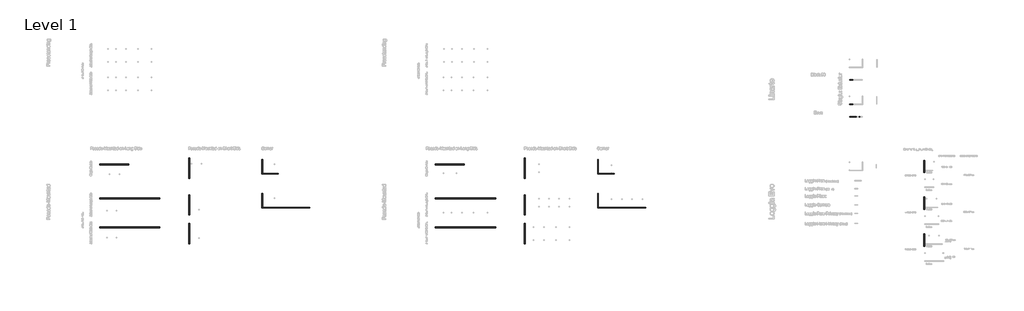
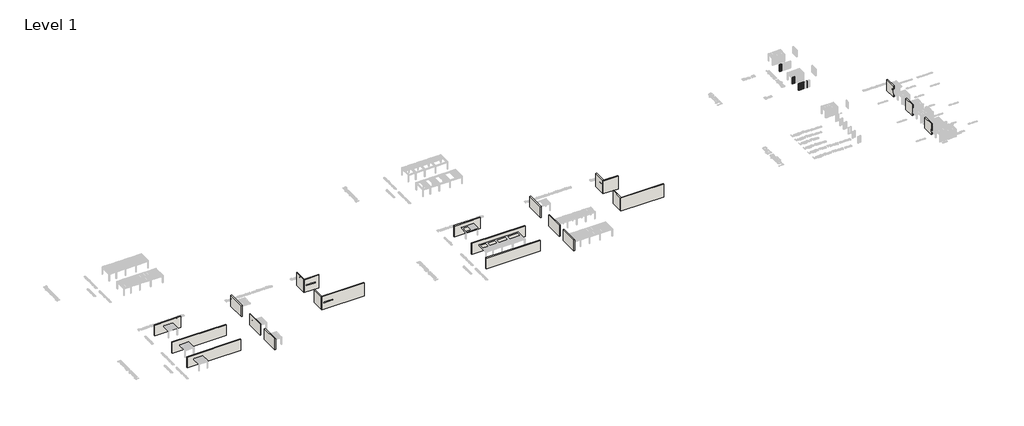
# One storey, part 1 of 69: 61 plates, 26 members, 23 walls.
"""IFC4 building model written with IfcOpenShell, lengths in millimetres."""

from ifc_helpers import new_model, si_unit, origin, origin_with_axes, place, context, project, spatial, polyline, outline, extrude, faceted_brep, transform, mapped, element, save
from components import rectangular_mullion_72383e52, rectangular_mullion_a288ed38

model = new_model("IFC4")

# Units and contexts
model_context = context("Model", 3, world=origin())
ifc_project = project(units=[si_unit("LENGTHUNIT", "METRE", prefix="MILLI")], contexts=[model_context])

# Site, building, storey
site = spatial("IfcSite", under=ifc_project)
building = spatial("IfcBuilding", under=site)
storey = spatial("IfcBuildingStorey", under=building, Name="Level 1", Elevation=0.0)

# Members
placement = place(None, origin())
rectangular_mullion_shape = rectangular_mullion_72383e52(model_context)
element("IfcMember", 1, ObjectType="Rectangular Mullion : Renson_Linarte_LA-B30-01", at=placement, inside=storey, context=model_context, shape_type="MappedRepresentation", body=[
    mapped(rectangular_mullion_shape, transform((207970.5749423, 15422.7652501, 0.0), x_axis=(-1.0, 0.0, 0.0), y_axis=(0.0, 1.0, 0.0), z_axis=(0.0, 0.0, -1.0))),
])
element("IfcMember", 2, ObjectType="Rectangular Mullion : Renson_Linarte_LA-B30-01", at=placement, inside=storey, context=model_context, shape_type="MappedRepresentation", body=[
    mapped(rectangular_mullion_shape, transform((207910.5749423, 15422.7652501, 0.0), x_axis=(-1.0, 0.0, 0.0), y_axis=(0.0, 1.0, 0.0), z_axis=(0.0, 0.0, -1.0))),
])
element("IfcMember", 3, ObjectType="Rectangular Mullion : Renson_Linarte_LA-B30-01", at=placement, inside=storey, context=model_context, shape_type="MappedRepresentation", body=[
    mapped(rectangular_mullion_shape, transform((207850.5749423, 15422.7652501, 0.0), x_axis=(-1.0, 0.0, 0.0), y_axis=(0.0, 1.0, 0.0), z_axis=(0.0, 0.0, -1.0))),
])
element("IfcMember", 4, ObjectType="Rectangular Mullion : Renson_Linarte_LA-B30-01", at=placement, inside=storey, context=model_context, shape_type="MappedRepresentation", body=[
    mapped(rectangular_mullion_shape, transform((207790.5749423, 15422.7652501, 0.0), x_axis=(-1.0, 0.0, 0.0), y_axis=(0.0, 1.0, 0.0), z_axis=(0.0, 0.0, -1.0))),
])
element("IfcMember", 5, ObjectType="Rectangular Mullion : Renson_Linarte_LA-B30-01", at=placement, inside=storey, context=model_context, shape_type="MappedRepresentation", body=[
    mapped(rectangular_mullion_shape, transform((207730.5749423, 15422.7652501, 0.0), x_axis=(-1.0, 0.0, 0.0), y_axis=(0.0, 1.0, 0.0), z_axis=(0.0, 0.0, -1.0))),
])
element("IfcMember", 6, ObjectType="Rectangular Mullion : Renson_Linarte_LA-B30-01", at=placement, inside=storey, context=model_context, shape_type="MappedRepresentation", body=[
    mapped(rectangular_mullion_shape, transform((207670.5749423, 15422.7652501, 0.0), x_axis=(-1.0, 0.0, 0.0), y_axis=(0.0, 1.0, 0.0), z_axis=(0.0, 0.0, -1.0))),
])
element("IfcMember", 7, ObjectType="Rectangular Mullion : Renson_Linarte_LA-B30-01", at=placement, inside=storey, context=model_context, shape_type="MappedRepresentation", body=[
    mapped(rectangular_mullion_shape, transform((207610.5749423, 15422.7652501, 0.0), x_axis=(-1.0, 0.0, 0.0), y_axis=(0.0, 1.0, 0.0), z_axis=(0.0, 0.0, -1.0))),
])
element("IfcMember", 8, ObjectType="Rectangular Mullion : Renson_Linarte_LA-B30-01", at=placement, inside=storey, context=model_context, shape_type="MappedRepresentation", body=[
    mapped(rectangular_mullion_shape, transform((207550.5749423, 15422.7652501, 0.0), x_axis=(-1.0, 0.0, 0.0), y_axis=(0.0, 1.0, 0.0), z_axis=(0.0, 0.0, -1.0))),
])
element("IfcMember", 9, ObjectType="Rectangular Mullion : Renson_Linarte_LA-B30-01", at=placement, inside=storey, context=model_context, shape_type="MappedRepresentation", body=[
    mapped(rectangular_mullion_shape, transform((207490.5749423, 15422.7652501, 0.0), x_axis=(-1.0, 0.0, 0.0), y_axis=(0.0, 1.0, 0.0), z_axis=(0.0, 0.0, -1.0))),
])
element("IfcMember", 10, ObjectType="Rectangular Mullion : Renson_Linarte_LA-B30-01", at=placement, inside=storey, context=model_context, shape_type="MappedRepresentation", body=[
    mapped(rectangular_mullion_shape, transform((207430.5749423, 15422.7652501, 0.0), x_axis=(-1.0, 0.0, 0.0), y_axis=(0.0, 1.0, 0.0), z_axis=(0.0, 0.0, -1.0))),
])
element("IfcMember", 11, ObjectType="Rectangular Mullion : Renson_Linarte_LA-B30-01", at=placement, inside=storey, context=model_context, shape_type="MappedRepresentation", body=[
    mapped(rectangular_mullion_shape, transform((207370.5749423, 15422.7652501, 0.0), x_axis=(-1.0, 0.0, 0.0), y_axis=(0.0, 1.0, 0.0), z_axis=(0.0, 0.0, -1.0))),
])
element("IfcMember", 12, ObjectType="Rectangular Mullion : Renson_Linarte_LA-B30-01", at=placement, inside=storey, context=model_context, shape_type="MappedRepresentation", body=[
    mapped(rectangular_mullion_shape, transform((207310.5749423, 15422.7652501, 0.0), x_axis=(-1.0, 0.0, 0.0), y_axis=(0.0, 1.0, 0.0), z_axis=(0.0, 0.0, -1.0))),
])
element("IfcMember", 13, ObjectType="Rectangular Mullion : Renson_Linarte_LA-B30-01", at=placement, inside=storey, context=model_context, shape_type="MappedRepresentation", body=[
    mapped(rectangular_mullion_shape, transform((207250.5749423, 15422.7652501, 0.0), x_axis=(-1.0, 0.0, 0.0), y_axis=(0.0, 1.0, 0.0), z_axis=(0.0, 0.0, -1.0))),
])
element("IfcMember", 14, ObjectType="Rectangular Mullion : Renson_Linarte_LA-B30-01", at=placement, inside=storey, context=model_context, shape_type="MappedRepresentation", body=[
    mapped(rectangular_mullion_shape, transform((207190.5749423, 15422.7652501, 0.0), x_axis=(-1.0, 0.0, 0.0), y_axis=(0.0, 1.0, 0.0), z_axis=(0.0, 0.0, -1.0))),
])
rectangular_mullion_2_shape = rectangular_mullion_a288ed38(model_context)
element("IfcMember", 15, ObjectType="Rectangular Mullion : Renson_Linarte_LA-E25-01", at=placement, inside=storey, context=model_context, shape_type="MappedRepresentation", body=[
    mapped(rectangular_mullion_2_shape, transform((207484.2591292, 4519.040906, 0.0), x_axis=(1.0, 0.0, 0.0), y_axis=(0.0, -1.0, 0.0), z_axis=(0.0, 0.0, -1.0))),
])
element("IfcMember", 16, ObjectType="Rectangular Mullion : Renson_Linarte_LA-E25-01", at=placement, inside=storey, context=model_context, shape_type="MappedRepresentation", body=[
    mapped(rectangular_mullion_2_shape, transform((207424.2591292, 4519.040906, 0.0), x_axis=(1.0, 0.0, 0.0), y_axis=(0.0, -1.0, 0.0), z_axis=(0.0, 0.0, -1.0))),
])
element("IfcMember", 17, ObjectType="Rectangular Mullion : Renson_Linarte_LA-E25-01", at=placement, inside=storey, context=model_context, shape_type="MappedRepresentation", body=[
    mapped(rectangular_mullion_2_shape, transform((207364.2591292, 4519.040906, 0.0), x_axis=(1.0, 0.0, 0.0), y_axis=(0.0, -1.0, 0.0), z_axis=(0.0, 0.0, -1.0))),
])
element("IfcMember", 18, ObjectType="Rectangular Mullion : Renson_Linarte_LA-E25-01", at=placement, inside=storey, context=model_context, shape_type="MappedRepresentation", body=[
    mapped(rectangular_mullion_2_shape, transform((207304.2591292, 4519.040906, 0.0), x_axis=(1.0, 0.0, 0.0), y_axis=(0.0, -1.0, 0.0), z_axis=(0.0, 0.0, -1.0))),
])
element("IfcMember", 19, ObjectType="Rectangular Mullion : Renson_Linarte_LA-E25-01", at=placement, inside=storey, context=model_context, shape_type="MappedRepresentation", body=[
    mapped(rectangular_mullion_2_shape, transform((207244.2591292, 4519.040906, 0.0), x_axis=(1.0, 0.0, 0.0), y_axis=(0.0, -1.0, 0.0), z_axis=(0.0, 0.0, -1.0))),
])
element("IfcMember", 20, ObjectType="Rectangular Mullion : Renson_Linarte_LA-E25-01", at=placement, inside=storey, context=model_context, shape_type="MappedRepresentation", body=[
    mapped(rectangular_mullion_2_shape, transform((207485.5749429, 8204.7218191, 0.0), x_axis=(1.0, 0.0, 0.0), y_axis=(0.0, -1.0, 0.0), z_axis=(0.0, 0.0, -1.0))),
])
element("IfcMember", 21, ObjectType="Rectangular Mullion : Renson_Linarte_LA-E25-01", at=placement, inside=storey, context=model_context, shape_type="MappedRepresentation", body=[
    mapped(rectangular_mullion_2_shape, transform((207425.5749429, 8204.7218191, 0.0), x_axis=(1.0, 0.0, 0.0), y_axis=(0.0, -1.0, 0.0), z_axis=(0.0, 0.0, -1.0))),
])
element("IfcMember", 22, ObjectType="Rectangular Mullion : Renson_Linarte_LA-E25-01", at=placement, inside=storey, context=model_context, shape_type="MappedRepresentation", body=[
    mapped(rectangular_mullion_2_shape, transform((207365.5749429, 8204.7218191, 0.0), x_axis=(1.0, 0.0, 0.0), y_axis=(0.0, -1.0, 0.0), z_axis=(0.0, 0.0, -1.0))),
])
element("IfcMember", 23, ObjectType="Rectangular Mullion : Renson_Linarte_LA-E25-01", at=placement, inside=storey, context=model_context, shape_type="MappedRepresentation", body=[
    mapped(rectangular_mullion_2_shape, transform((207305.5749429, 8204.7218191, 0.0), x_axis=(1.0, 0.0, 0.0), y_axis=(0.0, -1.0, 0.0), z_axis=(0.0, 0.0, -1.0))),
])
element("IfcMember", 24, ObjectType="Rectangular Mullion : Renson_Linarte_LA-E25-01", at=placement, inside=storey, context=model_context, shape_type="MappedRepresentation", body=[
    mapped(rectangular_mullion_2_shape, transform((207245.5749429, 8204.7218191, 0.0), x_axis=(1.0, 0.0, 0.0), y_axis=(0.0, -1.0, 0.0), z_axis=(0.0, 0.0, -1.0))),
])
element("IfcMember", 25, ObjectType="Rectangular Mullion : Renson_Linarte_LA-E25-01", at=placement, inside=storey, context=model_context, shape_type="MappedRepresentation", body=[
    mapped(rectangular_mullion_2_shape, transform((207185.5749429, 8204.7218191, 0.0), x_axis=(1.0, 0.0, 0.0), y_axis=(0.0, -1.0, 0.0), z_axis=(0.0, 0.0, -1.0))),
])
element("IfcMember", 26, ObjectType="Rectangular Mullion : Renson_Linarte_LA-E25-01", at=placement, inside=storey, context=model_context, shape_type="MappedRepresentation", body=[
    mapped(rectangular_mullion_2_shape, transform((207184.2591292, 4519.040906, 0.0), x_axis=(1.0, 0.0, 0.0), y_axis=(0.0, -1.0, 0.0), z_axis=(0.0, 0.0, -1.0))),
])

# Plates
element("IfcPlate", 27, ObjectType="Base - 64mm", at=placement, inside=storey, context=model_context, shape_type="SweptSolid", body=[
    extrude(outline(polyline([(207190.5749423, 15454.7652501), (207250.5749423, 15454.7652501), (207250.5749423, 15390.7652501), (207190.5749423, 15390.7652501), (207190.5749423, 15454.7652501)])), origin_with_axes(), (0.0, 0.0, 1.0), 2250.0),
])
element("IfcPlate", 28, ObjectType="Base - 64mm", at=placement, inside=storey, context=model_context, shape_type="SweptSolid", body=[
    extrude(outline(polyline([(207250.5749423, 15454.7652501), (207310.5749423, 15454.7652501), (207310.5749423, 15390.7652501), (207250.5749423, 15390.7652501), (207250.5749423, 15454.7652501)])), origin_with_axes(), (0.0, 0.0, 1.0), 2250.0),
])
element("IfcPlate", 29, ObjectType="Base - 64mm", at=placement, inside=storey, context=model_context, shape_type="SweptSolid", body=[
    extrude(outline(polyline([(207310.5749423, 15454.7652501), (207370.5749423, 15454.7652501), (207370.5749423, 15390.7652501), (207310.5749423, 15390.7652501), (207310.5749423, 15454.7652501)])), origin_with_axes(), (0.0, 0.0, 1.0), 2250.0),
])
element("IfcPlate", 30, ObjectType="Base - 64mm", at=placement, inside=storey, context=model_context, shape_type="SweptSolid", body=[
    extrude(outline(polyline([(207370.5749423, 15454.7652501), (207430.5749423, 15454.7652501), (207430.5749423, 15390.7652501), (207370.5749423, 15390.7652501), (207370.5749423, 15454.7652501)])), origin_with_axes(), (0.0, 0.0, 1.0), 2250.0),
])
element("IfcPlate", 31, ObjectType="Base - 64mm", at=placement, inside=storey, context=model_context, shape_type="SweptSolid", body=[
    extrude(outline(polyline([(207430.5749423, 15454.7652501), (207490.5749423, 15454.7652501), (207490.5749423, 15390.7652501), (207430.5749423, 15390.7652501), (207430.5749423, 15454.7652501)])), origin_with_axes(), (0.0, 0.0, 1.0), 2250.0),
])
element("IfcPlate", 32, ObjectType="Base - 64mm", at=placement, inside=storey, context=model_context, shape_type="SweptSolid", body=[
    extrude(outline(polyline([(207490.5749423, 15454.7652501), (207550.5749423, 15454.7652501), (207550.5749423, 15390.7652501), (207490.5749423, 15390.7652501), (207490.5749423, 15454.7652501)])), origin_with_axes(), (0.0, 0.0, 1.0), 2250.0),
])
element("IfcPlate", 33, ObjectType="Base - 64mm", at=placement, inside=storey, context=model_context, shape_type="SweptSolid", body=[
    extrude(outline(polyline([(207550.5749423, 15454.7652501), (207610.5749423, 15454.7652501), (207610.5749423, 15390.7652501), (207550.5749423, 15390.7652501), (207550.5749423, 15454.7652501)])), origin_with_axes(), (0.0, 0.0, 1.0), 2250.0),
])
element("IfcPlate", 34, ObjectType="Base - 64mm", at=placement, inside=storey, context=model_context, shape_type="SweptSolid", body=[
    extrude(outline(polyline([(207610.5749423, 15454.7652501), (207670.5749423, 15454.7652501), (207670.5749423, 15390.7652501), (207610.5749423, 15390.7652501), (207610.5749423, 15454.7652501)])), origin_with_axes(), (0.0, 0.0, 1.0), 2250.0),
])
element("IfcPlate", 35, ObjectType="Base - 64mm", at=placement, inside=storey, context=model_context, shape_type="SweptSolid", body=[
    extrude(outline(polyline([(207670.5749423, 15454.7652501), (207730.5749423, 15454.7652501), (207730.5749423, 15390.7652501), (207670.5749423, 15390.7652501), (207670.5749423, 15454.7652501)])), origin_with_axes(), (0.0, 0.0, 1.0), 2250.0),
])
element("IfcPlate", 36, ObjectType="Base - 64mm", at=placement, inside=storey, context=model_context, shape_type="SweptSolid", body=[
    extrude(outline(polyline([(207730.5749423, 15454.7652501), (207790.5749423, 15454.7652501), (207790.5749423, 15390.7652501), (207730.5749423, 15390.7652501), (207730.5749423, 15454.7652501)])), origin_with_axes(), (0.0, 0.0, 1.0), 2250.0),
])
element("IfcPlate", 37, ObjectType="Base - 64mm", at=placement, inside=storey, context=model_context, shape_type="SweptSolid", body=[
    extrude(outline(polyline([(207790.5749423, 15454.7652501), (207850.5749423, 15454.7652501), (207850.5749423, 15390.7652501), (207790.5749423, 15390.7652501), (207790.5749423, 15454.7652501)])), origin_with_axes(), (0.0, 0.0, 1.0), 2250.0),
])
element("IfcPlate", 38, ObjectType="Base - 64mm", at=placement, inside=storey, context=model_context, shape_type="SweptSolid", body=[
    extrude(outline(polyline([(207850.5749423, 15454.7652501), (207910.5749423, 15454.7652501), (207910.5749423, 15390.7652501), (207850.5749423, 15390.7652501), (207850.5749423, 15454.7652501)])), origin_with_axes(), (0.0, 0.0, 1.0), 2250.0),
])
element("IfcPlate", 39, ObjectType="Base - 64mm", at=placement, inside=storey, context=model_context, shape_type="SweptSolid", body=[
    extrude(outline(polyline([(207910.5749423, 15454.7652501), (207970.5749423, 15454.7652501), (207970.5749423, 15390.7652501), (207910.5749423, 15390.7652501), (207910.5749423, 15454.7652501)])), origin_with_axes(), (0.0, 0.0, 1.0), 2250.0),
])
element("IfcPlate", 40, ObjectType="Base - 64mm", at=placement, inside=storey, context=model_context, shape_type="SweptSolid", body=[
    extrude(outline(polyline([(207150.5749426, 15454.7652501), (207190.5749423, 15454.7652501), (207190.5749423, 15390.7652501), (207150.5749426, 15390.7652501), (207150.5749426, 15454.7652501)])), origin_with_axes(), (0.0, 0.0, 1.0), 2250.0),
])
element("IfcPlate", 41, ObjectType="Base - 64mm", at=placement, inside=storey, context=model_context, shape_type="SweptSolid", body=[
    extrude(outline(polyline([(210004.2591292, 4487.040906), (209944.2591292, 4487.040906), (209944.2591292, 4551.040906), (210004.2591292, 4551.040906), (210004.2591292, 4487.040906)])), origin_with_axes(), (0.0, 0.0, 1.0), 2250.0),
])
element("IfcPlate", 42, ObjectType="Base - 64mm", at=placement, inside=storey, context=model_context, shape_type="SweptSolid", body=[
    extrude(outline(polyline([(208984.2591292, 4487.040906), (208924.2591292, 4487.040906), (208924.2591292, 4551.040906), (208984.2591292, 4551.040906), (208984.2591292, 4487.040906)])), origin_with_axes(), (0.0, 0.0, 1.0), 2250.0),
])
element("IfcPlate", 43, ObjectType="Base - 64mm", at=placement, inside=storey, context=model_context, shape_type="SweptSolid", body=[
    extrude(outline(polyline([(208924.2591292, 4487.040906), (208864.2591292, 4487.040906), (208864.2591292, 4551.040906), (208924.2591292, 4551.040906), (208924.2591292, 4487.040906)])), origin_with_axes(), (0.0, 0.0, 1.0), 2250.0),
])
element("IfcPlate", 44, ObjectType="Base - 64mm", at=placement, inside=storey, context=model_context, shape_type="SweptSolid", body=[
    extrude(outline(polyline([(208864.2591292, 4487.040906), (208804.2591292, 4487.040906), (208804.2591292, 4551.040906), (208864.2591292, 4551.040906), (208864.2591292, 4487.040906)])), origin_with_axes(), (0.0, 0.0, 1.0), 2250.0),
])
element("IfcPlate", 45, ObjectType="Base - 64mm", at=placement, inside=storey, context=model_context, shape_type="SweptSolid", body=[
    extrude(outline(polyline([(208804.2591292, 4487.040906), (208744.2591292, 4487.040906), (208744.2591292, 4551.040906), (208804.2591292, 4551.040906), (208804.2591292, 4487.040906)])), origin_with_axes(), (0.0, 0.0, 1.0), 2250.0),
])
element("IfcPlate", 46, ObjectType="Base - 64mm", at=placement, inside=storey, context=model_context, shape_type="SweptSolid", body=[
    extrude(outline(polyline([(208744.2591292, 4487.040906), (208684.2591292, 4487.040906), (208684.2591292, 4551.040906), (208744.2591292, 4551.040906), (208744.2591292, 4487.040906)])), origin_with_axes(), (0.0, 0.0, 1.0), 2250.0),
])
element("IfcPlate", 47, ObjectType="Base - 64mm", at=placement, inside=storey, context=model_context, shape_type="SweptSolid", body=[
    extrude(outline(polyline([(208684.2591292, 4487.040906), (208624.2591292, 4487.040906), (208624.2591292, 4551.040906), (208684.2591292, 4551.040906), (208684.2591292, 4487.040906)])), origin_with_axes(), (0.0, 0.0, 1.0), 2250.0),
])
element("IfcPlate", 48, ObjectType="Base - 64mm", at=placement, inside=storey, context=model_context, shape_type="SweptSolid", body=[
    extrude(outline(polyline([(208624.2591292, 4487.040906), (208564.2591292, 4487.040906), (208564.2591292, 4551.040906), (208624.2591292, 4551.040906), (208624.2591292, 4487.040906)])), origin_with_axes(), (0.0, 0.0, 1.0), 2250.0),
])
element("IfcPlate", 49, ObjectType="Base - 64mm", at=placement, inside=storey, context=model_context, shape_type="SweptSolid", body=[
    extrude(outline(polyline([(208564.2591292, 4487.040906), (208504.2591292, 4487.040906), (208504.2591292, 4551.040906), (208564.2591292, 4551.040906), (208564.2591292, 4487.040906)])), origin_with_axes(), (0.0, 0.0, 1.0), 2250.0),
])
element("IfcPlate", 50, ObjectType="Base - 64mm", at=placement, inside=storey, context=model_context, shape_type="SweptSolid", body=[
    extrude(outline(polyline([(208504.2591292, 4487.040906), (208444.2591292, 4487.040906), (208444.2591292, 4551.040906), (208504.2591292, 4551.040906), (208504.2591292, 4487.040906)])), origin_with_axes(), (0.0, 0.0, 1.0), 2250.0),
])
element("IfcPlate", 51, ObjectType="Base - 64mm", at=placement, inside=storey, context=model_context, shape_type="SweptSolid", body=[
    extrude(outline(polyline([(208444.2591292, 4487.040906), (208384.2591292, 4487.040906), (208384.2591292, 4551.040906), (208444.2591292, 4551.040906), (208444.2591292, 4487.040906)])), origin_with_axes(), (0.0, 0.0, 1.0), 2250.0),
])
element("IfcPlate", 52, ObjectType="Base - 64mm", at=placement, inside=storey, context=model_context, shape_type="SweptSolid", body=[
    extrude(outline(polyline([(208384.2591292, 4487.040906), (208324.2591292, 4487.040906), (208324.2591292, 4551.040906), (208384.2591292, 4551.040906), (208384.2591292, 4487.040906)])), origin_with_axes(), (0.0, 0.0, 1.0), 2250.0),
])
element("IfcPlate", 53, ObjectType="Base - 64mm", at=placement, inside=storey, context=model_context, shape_type="SweptSolid", body=[
    extrude(outline(polyline([(208324.2591292, 4487.040906), (208264.2591292, 4487.040906), (208264.2591292, 4551.040906), (208324.2591292, 4551.040906), (208324.2591292, 4487.040906)])), origin_with_axes(), (0.0, 0.0, 1.0), 2250.0),
])
element("IfcPlate", 54, ObjectType="Base - 64mm", at=placement, inside=storey, context=model_context, shape_type="SweptSolid", body=[
    extrude(outline(polyline([(208264.2591292, 4487.040906), (208204.2591292, 4487.040906), (208204.2591292, 4551.040906), (208264.2591292, 4551.040906), (208264.2591292, 4487.040906)])), origin_with_axes(), (0.0, 0.0, 1.0), 2250.0),
])
element("IfcPlate", 55, ObjectType="Base - 64mm", at=placement, inside=storey, context=model_context, shape_type="SweptSolid", body=[
    extrude(outline(polyline([(208204.2591292, 4487.040906), (208144.2591292, 4487.040906), (208144.2591292, 4551.040906), (208204.2591292, 4551.040906), (208204.2591292, 4487.040906)])), origin_with_axes(), (0.0, 0.0, 1.0), 2250.0),
])
element("IfcPlate", 56, ObjectType="Base - 64mm", at=placement, inside=storey, context=model_context, shape_type="SweptSolid", body=[
    extrude(outline(polyline([(208144.2591292, 4487.040906), (208084.2591292, 4487.040906), (208084.2591292, 4551.040906), (208144.2591292, 4551.040906), (208144.2591292, 4487.040906)])), origin_with_axes(), (0.0, 0.0, 1.0), 2250.0),
])
element("IfcPlate", 57, ObjectType="Base - 64mm", at=placement, inside=storey, context=model_context, shape_type="SweptSolid", body=[
    extrude(outline(polyline([(208084.2591292, 4487.040906), (208024.2591292, 4487.040906), (208024.2591292, 4551.040906), (208084.2591292, 4551.040906), (208084.2591292, 4487.040906)])), origin_with_axes(), (0.0, 0.0, 1.0), 2250.0),
])
element("IfcPlate", 58, ObjectType="Base - 64mm", at=placement, inside=storey, context=model_context, shape_type="SweptSolid", body=[
    extrude(outline(polyline([(208024.2591292, 4487.040906), (207964.2591292, 4487.040906), (207964.2591292, 4551.040906), (208024.2591292, 4551.040906), (208024.2591292, 4487.040906)])), origin_with_axes(), (0.0, 0.0, 1.0), 2250.0),
])
element("IfcPlate", 59, ObjectType="Base - 64mm", at=placement, inside=storey, context=model_context, shape_type="SweptSolid", body=[
    extrude(outline(polyline([(207964.2591292, 4487.040906), (207904.2591292, 4487.040906), (207904.2591292, 4551.040906), (207964.2591292, 4551.040906), (207964.2591292, 4487.040906)])), origin_with_axes(), (0.0, 0.0, 1.0), 2250.0),
])
element("IfcPlate", 60, ObjectType="Base - 64mm", at=placement, inside=storey, context=model_context, shape_type="SweptSolid", body=[
    extrude(outline(polyline([(207904.2591292, 4487.040906), (207844.2591292, 4487.040906), (207844.2591292, 4551.040906), (207904.2591292, 4551.040906), (207904.2591292, 4487.040906)])), origin_with_axes(), (0.0, 0.0, 1.0), 2250.0),
])
element("IfcPlate", 61, ObjectType="Base - 64mm", at=placement, inside=storey, context=model_context, shape_type="SweptSolid", body=[
    extrude(outline(polyline([(207844.2591292, 4487.040906), (207784.2591292, 4487.040906), (207784.2591292, 4551.040906), (207844.2591292, 4551.040906), (207844.2591292, 4487.040906)])), origin_with_axes(), (0.0, 0.0, 1.0), 2250.0),
])
element("IfcPlate", 62, ObjectType="Base - 64mm", at=placement, inside=storey, context=model_context, shape_type="SweptSolid", body=[
    extrude(outline(polyline([(207784.2591292, 4487.040906), (207724.2591292, 4487.040906), (207724.2591292, 4551.040906), (207784.2591292, 4551.040906), (207784.2591292, 4487.040906)])), origin_with_axes(), (0.0, 0.0, 1.0), 2250.0),
])
element("IfcPlate", 63, ObjectType="Base - 64mm", at=placement, inside=storey, context=model_context, shape_type="SweptSolid", body=[
    extrude(outline(polyline([(207724.2591292, 4487.040906), (207664.2591292, 4487.040906), (207664.2591292, 4551.040906), (207724.2591292, 4551.040906), (207724.2591292, 4487.040906)])), origin_with_axes(), (0.0, 0.0, 1.0), 2250.0),
])
element("IfcPlate", 64, ObjectType="Base - 64mm", at=placement, inside=storey, context=model_context, shape_type="SweptSolid", body=[
    extrude(outline(polyline([(207664.2591292, 4487.040906), (207604.2591292, 4487.040906), (207604.2591292, 4551.040906), (207664.2591292, 4551.040906), (207664.2591292, 4487.040906)])), origin_with_axes(), (0.0, 0.0, 1.0), 2250.0),
])
element("IfcPlate", 65, ObjectType="Base - 64mm", at=placement, inside=storey, context=model_context, shape_type="SweptSolid", body=[
    extrude(outline(polyline([(207604.2591292, 4487.040906), (207544.2591292, 4487.040906), (207544.2591292, 4551.040906), (207604.2591292, 4551.040906), (207604.2591292, 4487.040906)])), origin_with_axes(), (0.0, 0.0, 1.0), 2250.0),
])
element("IfcPlate", 66, ObjectType="Base - 64mm", at=placement, inside=storey, context=model_context, shape_type="SweptSolid", body=[
    extrude(outline(polyline([(207544.2591292, 4487.040906), (207484.2591292, 4487.040906), (207484.2591292, 4551.040906), (207544.2591292, 4551.040906), (207544.2591292, 4487.040906)])), origin_with_axes(), (0.0, 0.0, 1.0), 2250.0),
])
element("IfcPlate", 67, ObjectType="Base - 64mm", at=placement, inside=storey, context=model_context, shape_type="SweptSolid", body=[
    extrude(outline(polyline([(207484.2591292, 4487.040906), (207424.2591292, 4487.040906), (207424.2591292, 4551.040906), (207484.2591292, 4551.040906), (207484.2591292, 4487.040906)])), origin_with_axes(), (0.0, 0.0, 1.0), 2250.0),
])
element("IfcPlate", 68, ObjectType="Base - 64mm", at=placement, inside=storey, context=model_context, shape_type="SweptSolid", body=[
    extrude(outline(polyline([(207424.2591292, 4487.040906), (207364.2591292, 4487.040906), (207364.2591292, 4551.040906), (207424.2591292, 4551.040906), (207424.2591292, 4487.040906)])), origin_with_axes(), (0.0, 0.0, 1.0), 2250.0),
])
element("IfcPlate", 69, ObjectType="Base - 64mm", at=placement, inside=storey, context=model_context, shape_type="SweptSolid", body=[
    extrude(outline(polyline([(207364.2591292, 4487.040906), (207304.2591292, 4487.040906), (207304.2591292, 4551.040906), (207364.2591292, 4551.040906), (207364.2591292, 4487.040906)])), origin_with_axes(), (0.0, 0.0, 1.0), 2250.0),
])
element("IfcPlate", 70, ObjectType="Base - 64mm", at=placement, inside=storey, context=model_context, shape_type="SweptSolid", body=[
    extrude(outline(polyline([(207304.2591292, 4487.040906), (207244.2591292, 4487.040906), (207244.2591292, 4551.040906), (207304.2591292, 4551.040906), (207304.2591292, 4487.040906)])), origin_with_axes(), (0.0, 0.0, 1.0), 2250.0),
])
element("IfcPlate", 71, ObjectType="Base - 64mm", at=placement, inside=storey, context=model_context, shape_type="SweptSolid", body=[
    extrude(outline(polyline([(208025.5749429, 8172.7218191), (207965.5749429, 8172.7218191), (207965.5749429, 8236.7218191), (208025.5749429, 8236.7218191), (208025.5749429, 8172.7218191)])), origin_with_axes(), (0.0, 0.0, 1.0), 2250.0),
])
element("IfcPlate", 72, ObjectType="Base - 64mm", at=placement, inside=storey, context=model_context, shape_type="SweptSolid", body=[
    extrude(outline(polyline([(207965.5749429, 8172.7218191), (207905.5749429, 8172.7218191), (207905.5749429, 8236.7218191), (207965.5749429, 8236.7218191), (207965.5749429, 8172.7218191)])), origin_with_axes(), (0.0, 0.0, 1.0), 2250.0),
])
element("IfcPlate", 73, ObjectType="Base - 64mm", at=placement, inside=storey, context=model_context, shape_type="SweptSolid", body=[
    extrude(outline(polyline([(207905.5749429, 8172.7218191), (207845.5749429, 8172.7218191), (207845.5749429, 8236.7218191), (207905.5749429, 8236.7218191), (207905.5749429, 8172.7218191)])), origin_with_axes(), (0.0, 0.0, 1.0), 2250.0),
])
element("IfcPlate", 74, ObjectType="Base - 64mm", at=placement, inside=storey, context=model_context, shape_type="SweptSolid", body=[
    extrude(outline(polyline([(207845.5749429, 8172.7218191), (207785.5749429, 8172.7218191), (207785.5749429, 8236.7218191), (207845.5749429, 8236.7218191), (207845.5749429, 8172.7218191)])), origin_with_axes(), (0.0, 0.0, 1.0), 2250.0),
])
element("IfcPlate", 75, ObjectType="Base - 64mm", at=placement, inside=storey, context=model_context, shape_type="SweptSolid", body=[
    extrude(outline(polyline([(207785.5749429, 8172.7218191), (207725.5749429, 8172.7218191), (207725.5749429, 8236.7218191), (207785.5749429, 8236.7218191), (207785.5749429, 8172.7218191)])), origin_with_axes(), (0.0, 0.0, 1.0), 2250.0),
])
element("IfcPlate", 76, ObjectType="Base - 64mm", at=placement, inside=storey, context=model_context, shape_type="SweptSolid", body=[
    extrude(outline(polyline([(207725.5749429, 8172.7218191), (207665.5749429, 8172.7218191), (207665.5749429, 8236.7218191), (207725.5749429, 8236.7218191), (207725.5749429, 8172.7218191)])), origin_with_axes(), (0.0, 0.0, 1.0), 2250.0),
])
element("IfcPlate", 77, ObjectType="Base - 64mm", at=placement, inside=storey, context=model_context, shape_type="SweptSolid", body=[
    extrude(outline(polyline([(207665.5749429, 8172.7218191), (207605.5749429, 8172.7218191), (207605.5749429, 8236.7218191), (207665.5749429, 8236.7218191), (207665.5749429, 8172.7218191)])), origin_with_axes(), (0.0, 0.0, 1.0), 2250.0),
])
element("IfcPlate", 78, ObjectType="Base - 64mm", at=placement, inside=storey, context=model_context, shape_type="SweptSolid", body=[
    extrude(outline(polyline([(207605.5749429, 8172.7218191), (207545.5749429, 8172.7218191), (207545.5749429, 8236.7218191), (207605.5749429, 8236.7218191), (207605.5749429, 8172.7218191)])), origin_with_axes(), (0.0, 0.0, 1.0), 2250.0),
])
element("IfcPlate", 79, ObjectType="Base - 64mm", at=placement, inside=storey, context=model_context, shape_type="SweptSolid", body=[
    extrude(outline(polyline([(207545.5749429, 8172.7218191), (207485.5749429, 8172.7218191), (207485.5749429, 8236.7218191), (207545.5749429, 8236.7218191), (207545.5749429, 8172.7218191)])), origin_with_axes(), (0.0, 0.0, 1.0), 2250.0),
])
element("IfcPlate", 80, ObjectType="Base - 64mm", at=placement, inside=storey, context=model_context, shape_type="SweptSolid", body=[
    extrude(outline(polyline([(207485.5749429, 8172.7218191), (207425.5749429, 8172.7218191), (207425.5749429, 8236.7218191), (207485.5749429, 8236.7218191), (207485.5749429, 8172.7218191)])), origin_with_axes(), (0.0, 0.0, 1.0), 2250.0),
])
element("IfcPlate", 81, ObjectType="Base - 64mm", at=placement, inside=storey, context=model_context, shape_type="SweptSolid", body=[
    extrude(outline(polyline([(207425.5749429, 8172.7218191), (207365.5749429, 8172.7218191), (207365.5749429, 8236.7218191), (207425.5749429, 8236.7218191), (207425.5749429, 8172.7218191)])), origin_with_axes(), (0.0, 0.0, 1.0), 2250.0),
])
element("IfcPlate", 82, ObjectType="Base - 64mm", at=placement, inside=storey, context=model_context, shape_type="SweptSolid", body=[
    extrude(outline(polyline([(207365.5749429, 8172.7218191), (207305.5749429, 8172.7218191), (207305.5749429, 8236.7218191), (207365.5749429, 8236.7218191), (207365.5749429, 8172.7218191)])), origin_with_axes(), (0.0, 0.0, 1.0), 2250.0),
])
element("IfcPlate", 83, ObjectType="Base - 64mm", at=placement, inside=storey, context=model_context, shape_type="SweptSolid", body=[
    extrude(outline(polyline([(207305.5749429, 8172.7218191), (207245.5749429, 8172.7218191), (207245.5749429, 8236.7218191), (207305.5749429, 8236.7218191), (207305.5749429, 8172.7218191)])), origin_with_axes(), (0.0, 0.0, 1.0), 2250.0),
])
element("IfcPlate", 84, ObjectType="Base - 64mm", at=placement, inside=storey, context=model_context, shape_type="SweptSolid", body=[
    extrude(outline(polyline([(207245.5749429, 8172.7218191), (207185.5749429, 8172.7218191), (207185.5749429, 8236.7218191), (207245.5749429, 8236.7218191), (207245.5749429, 8172.7218191)])), origin_with_axes(), (0.0, 0.0, 1.0), 2250.0),
])
element("IfcPlate", 85, ObjectType="Base - 64mm", at=placement, inside=storey, context=model_context, shape_type="SweptSolid", body=[
    extrude(outline(polyline([(207185.5749429, 8172.7218191), (207125.5749426, 8172.7218191), (207125.5749426, 8236.7218191), (207185.5749429, 8236.7218191), (207185.5749429, 8172.7218191)])), origin_with_axes(), (0.0, 0.0, 1.0), 2250.0),
])
element("IfcPlate", 86, ObjectType="Base - 64mm", at=placement, inside=storey, context=model_context, shape_type="SweptSolid", body=[
    extrude(outline(polyline([(207244.2591292, 4487.040906), (207184.2591292, 4487.040906), (207184.2591292, 4551.040906), (207244.2591292, 4551.040906), (207244.2591292, 4487.040906)])), origin_with_axes(), (0.0, 0.0, 1.0), 2250.0),
])
element("IfcPlate", 87, ObjectType="Base - 64mm", at=placement, inside=storey, context=model_context, shape_type="SweptSolid", body=[
    extrude(outline(polyline([(207184.2591292, 4487.040906), (207124.2591289, 4487.040906), (207124.2591289, 4551.040906), (207184.2591292, 4551.040906), (207184.2591292, 4487.040906)])), origin_with_axes(), (0.0, 0.0, 1.0), 2250.0),
])

# Walls
element("IfcWall", 88, ObjectType="Generic - 200mm", at=placement, inside=storey, context=model_context, shape_type="Brep", body=[
    faceted_brep([(34125.3957203, -12325.9863343, 0.0), (38985.7387145, -12325.9863343, 0.0), (38985.7387145, -12325.9863343, 4500.0), (34125.3957203, -12325.9863343, 4500.0), (34125.3957203, -12125.9863343, 0.0), (34125.3957203, -12125.9863343, 4500.0), (34325.3957203, -12125.9863343, 4500.0), (38985.7387145, -12125.9863343, 4500.0), (38985.7387145, -12125.9863343, 0.0), (34325.3957203, -12125.9863343, 0.0)], [[[0, 1, 2, 3]], [[4, 5, 6, 7, 8, 9]], [[1, 0, 4, 9, 8]], [[2, 1, 8, 7]], [[3, 2, 7, 6, 5]], [[0, 3, 5, 4]]]),
])
element("IfcWall", 89, ObjectType="Generic - 200mm", at=placement, inside=storey, context=model_context, shape_type="SweptSolid", body=[
    extrude(outline(polyline([(34125.3957203, -12125.9863343), (34125.3957203, -8075.9863343), (34325.3957203, -8075.9863343), (34325.3957203, -12125.9863343), (34125.3957203, -12125.9863343)])), origin_with_axes(), (0.0, 0.0, 1.0), 4500.0),
])
element("IfcWall", 90, ObjectType="Generic - 200mm", at=placement, inside=storey, context=model_context, shape_type="Brep", body=[
    faceted_brep([(34125.3957203, -22325.9863343, 0.0), (48225.3957203, -22325.9863343, 0.0), (48225.3957203, -22325.9863343, 4500.0), (34125.3957203, -22325.9863343, 4500.0), (34125.3957203, -22125.9863343, 0.0), (34125.3957203, -22125.9863343, 4500.0), (34325.3957203, -22125.9863343, 4500.0), (48225.3957203, -22125.9863343, 4500.0), (48225.3957203, -22125.9863343, 0.0), (34325.3957203, -22125.9863343, 0.0)], [[[0, 1, 2, 3]], [[4, 5, 6, 7, 8, 9]], [[1, 0, 4, 9, 8]], [[2, 1, 8, 7]], [[3, 2, 7, 6, 5]], [[0, 3, 5, 4]]]),
])
element("IfcWall", 91, ObjectType="Generic - 200mm", at=placement, inside=storey, context=model_context, shape_type="SweptSolid", body=[
    extrude(outline(polyline([(34125.3957203, -22125.9863343), (34125.3957203, -18075.9863343), (34325.3957203, -18075.9863343), (34325.3957203, -22125.9863343), (34125.3957203, -22125.9863343)])), origin_with_axes(), (0.0, 0.0, 1.0), 4500.0),
])
element("IfcWall", 92, ObjectType="Generic - 200mm", at=placement, inside=storey, context=model_context, shape_type="Brep", body=[
    faceted_brep([(132955.025111, -12325.9863343, 0.0), (137815.3681052, -12325.9863343, 0.0), (137815.3681052, -12325.9863343, 4500.0), (132955.025111, -12325.9863343, 4500.0), (132955.025111, -12125.9863343, 0.0), (132955.025111, -12125.9863343, 4500.0), (133155.025111, -12125.9863343, 4500.0), (137815.3681052, -12125.9863343, 4500.0), (137815.3681052, -12125.9863343, 0.0), (133155.025111, -12125.9863343, 0.0)], [[[0, 1, 2, 3]], [[4, 5, 6, 7, 8, 9]], [[1, 0, 4, 9, 8]], [[2, 1, 8, 7]], [[3, 2, 7, 6, 5]], [[0, 3, 5, 4]]]),
])
element("IfcWall", 93, ObjectType="Generic - 200mm", at=placement, inside=storey, context=model_context, shape_type="SweptSolid", body=[
    extrude(outline(polyline([(132955.025111, -12125.9863343), (132955.025111, -8075.9863343), (133155.025111, -8075.9863343), (133155.025111, -12125.9863343), (132955.025111, -12125.9863343)])), origin_with_axes(), (0.0, 0.0, 1.0), 4500.0),
])
element("IfcWall", 94, ObjectType="Generic - 200mm", at=placement, inside=storey, context=model_context, shape_type="Brep", body=[
    faceted_brep([(132955.025111, -22325.9863343, 0.0), (147055.025111, -22325.9863343, 0.0), (147055.025111, -22325.9863343, 4500.0), (132955.025111, -22325.9863343, 4500.0), (147055.025111, -22125.9863343, 0.0), (133155.025111, -22125.9863343, 0.0), (132955.025111, -22125.9863343, 0.0), (132955.025111, -22125.9863343, 4500.0), (133155.025111, -22125.9863343, 4500.0), (147055.025111, -22125.9863343, 4500.0)], [[[0, 1, 2, 3]], [[4, 5, 6, 7, 8, 9]], [[1, 0, 6, 5, 4]], [[2, 1, 4, 9]], [[3, 2, 9, 8, 7]], [[0, 3, 7, 6]]]),
])
element("IfcWall", 95, ObjectType="Generic - 200mm", at=placement, inside=storey, context=model_context, shape_type="SweptSolid", body=[
    extrude(outline(polyline([(132955.025111, -22125.9863343), (132955.025111, -18075.9863343), (133155.025111, -18075.9863343), (133155.025111, -22125.9863343), (132955.025111, -22125.9863343)])), origin_with_axes(), (0.0, 0.0, 1.0), 4500.0),
])
element("IfcWall", 96, ObjectType="Generic - 300mm", at=placement, inside=storey, context=model_context, shape_type="SweptSolid", body=[
    extrude(outline(polyline([(-5086.834943, -9725.9863343), (-13686.834943, -9725.9863343), (-13686.834943, -9425.9863343), (-5086.834943, -9425.9863343), (-5086.834943, -9725.9863343)])), origin_with_axes(), (0.0, 0.0, 1.0), 3770.0),
])
element("IfcWall", 97, ObjectType="Generic - 300mm", at=placement, inside=storey, context=model_context, shape_type="SweptSolid", body=[
    extrude(outline(polyline([(4093.165057, -19725.9863343), (-13686.834943, -19725.9863343), (-13686.834943, -19425.9863343), (4093.165057, -19425.9863343), (4093.165057, -19725.9863343)])), origin_with_axes(), (0.0, 0.0, 1.0), 3770.0),
])
element("IfcWall", 98, ObjectType="Generic - 300mm", at=placement, inside=storey, context=model_context, shape_type="SweptSolid", body=[
    extrude(outline(polyline([(4093.165057, -28150.5588086), (-13686.834943, -28150.5588086), (-13686.834943, -27850.5588086), (4093.165057, -27850.5588086), (4093.165057, -28150.5588086)])), origin_with_axes(), (0.0, 0.0, 1.0), 3770.0),
])
element("IfcWall", 99, ObjectType="Generic - 300mm", at=placement, inside=storey, context=model_context, shape_type="SweptSolid", body=[
    extrude(outline(polyline([(12861.7174277, -7675.9863343), (12861.7174277, -13675.9863343), (12561.7174277, -13675.9863343), (12561.7174277, -7675.9863343), (12861.7174277, -7675.9863343)])), origin_with_axes(), (0.0, 0.0, 1.0), 3770.0),
])
element("IfcWall", 100, ObjectType="Generic - 300mm", at=placement, inside=storey, context=model_context, shape_type="SweptSolid", body=[
    extrude(outline(polyline([(12861.7174277, -18425.9863343), (12861.7174277, -24425.9863343), (12561.7174277, -24425.9863343), (12561.7174277, -18425.9863343), (12861.7174277, -18425.9863343)])), origin_with_axes(), (0.0, 0.0, 1.0), 3770.0),
])
element("IfcWall", 101, ObjectType="Generic - 300mm", at=placement, inside=storey, context=model_context, shape_type="SweptSolid", body=[
    extrude(outline(polyline([(93742.7944478, -9725.9863343), (85142.7944478, -9725.9863343), (85142.7944478, -9425.9863343), (93742.7944478, -9425.9863343), (93742.7944478, -9725.9863343)])), origin_with_axes(), (0.0, 0.0, 1.0), 3770.0),
])
element("IfcWall", 102, ObjectType="Generic - 300mm", at=placement, inside=storey, context=model_context, shape_type="SweptSolid", body=[
    extrude(outline(polyline([(102922.7944478, -19725.9863343), (85142.7944478, -19725.9863343), (85142.7944478, -19425.9863343), (102922.7944478, -19425.9863343), (102922.7944478, -19725.9863343)])), origin_with_axes(), (0.0, 0.0, 1.0), 3770.0),
])
element("IfcWall", 103, ObjectType="Generic - 300mm", at=placement, inside=storey, context=model_context, shape_type="SweptSolid", body=[
    extrude(outline(polyline([(102922.7944478, -28150.5588086), (85142.7944478, -28150.5588086), (85142.7944478, -27850.5588086), (102922.7944478, -27850.5588086), (102922.7944478, -28150.5588086)])), origin_with_axes(), (0.0, 0.0, 1.0), 3770.0),
])
element("IfcWall", 104, ObjectType="Generic - 300mm", at=placement, inside=storey, context=model_context, shape_type="SweptSolid", body=[
    extrude(outline(polyline([(12861.7174277, -26850.5588086), (12861.7174277, -32850.5588086), (12561.7174277, -32850.5588086), (12561.7174277, -26850.5588086), (12861.7174277, -26850.5588086)])), origin_with_axes(), (0.0, 0.0, 1.0), 3770.0),
])
element("IfcWall", 105, ObjectType="Generic - 300mm", at=placement, inside=storey, context=model_context, shape_type="SweptSolid", body=[
    extrude(outline(polyline([(111691.3468184, -7675.9863343), (111691.3468184, -13675.9863343), (111391.3468184, -13675.9863343), (111391.3468184, -7675.9863343), (111691.3468184, -7675.9863343)])), origin_with_axes(), (0.0, 0.0, 1.0), 3770.0),
])
element("IfcWall", 106, ObjectType="Generic - 300mm", at=placement, inside=storey, context=model_context, shape_type="SweptSolid", body=[
    extrude(outline(polyline([(111691.3468184, -18425.9863343), (111691.3468184, -24425.9863343), (111391.3468184, -24425.9863343), (111391.3468184, -18425.9863343), (111691.3468184, -18425.9863343)])), origin_with_axes(), (0.0, 0.0, 1.0), 3770.0),
])
element("IfcWall", 107, ObjectType="Generic - 300mm", at=placement, inside=storey, context=model_context, shape_type="SweptSolid", body=[
    extrude(outline(polyline([(111691.3468184, -26850.5588086), (111691.3468184, -32850.5588086), (111391.3468184, -32850.5588086), (111391.3468184, -26850.5588086), (111691.3468184, -26850.5588086)])), origin_with_axes(), (0.0, 0.0, 1.0), 3770.0),
])
element("IfcWall", 108, ObjectType="Generic - 300mm", at=placement, inside=storey, context=model_context, shape_type="SweptSolid", body=[
    extrude(outline(polyline([(229248.7027724, -8275.9863343), (229248.7027724, -11875.9863343), (228948.7027724, -11875.9863343), (228948.7027724, -8275.9863343), (229248.7027724, -8275.9863343)])), origin_with_axes(), (0.0, 0.0, 1.0), 3770.0),
])
element("IfcWall", 109, ObjectType="Generic - 300mm", at=placement, inside=storey, context=model_context, shape_type="SweptSolid", body=[
    extrude(outline(polyline([(229248.7027724, -19153.6075717), (229248.7027724, -22753.6075717), (228948.7027724, -22753.6075717), (228948.7027724, -19153.6075717), (229248.7027724, -19153.6075717)])), origin_with_axes(), (0.0, 0.0, 1.0), 3770.0),
])
element("IfcWall", 110, ObjectType="Generic - 300mm", at=placement, inside=storey, context=model_context, shape_type="SweptSolid", body=[
    extrude(outline(polyline([(229248.7027724, -30031.2288091), (229248.7027724, -33631.2288091), (228948.7027724, -33631.2288091), (228948.7027724, -30031.2288091), (229248.7027724, -30031.2288091)])), origin_with_axes(), (0.0, 0.0, 1.0), 3770.0),
])

save(model, "model.ifc")
